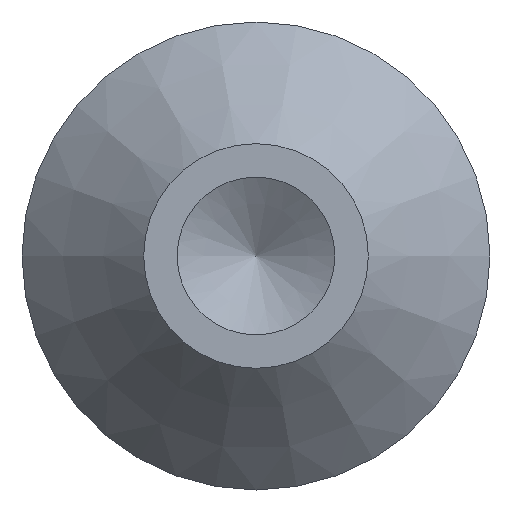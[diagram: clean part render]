
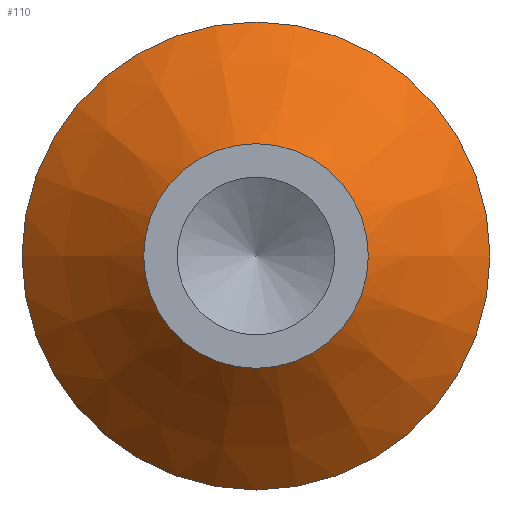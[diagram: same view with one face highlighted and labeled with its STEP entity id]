
A CAD part, left-side view. The second image highlights one B-rep face of the part: STEP entity #110.
In plain terms, the highlighted conical face has half-angle 45 degrees and reference radius 1.175 mm.
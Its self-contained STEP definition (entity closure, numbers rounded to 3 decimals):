
#24=FACE_BOUND($,#49,.T.);
#36=FACE_OUTER_BOUND($,#48,.T.);
#48=EDGE_LOOP($,(#93));
#49=EDGE_LOOP($,(#94));
#61=CIRCLE($,#128,0.762);
#63=CIRCLE($,#131,1.588);
#70=VERTEX_POINT($,#193);
#72=VERTEX_POINT($,#198);
#79=EDGE_CURVE($,#70,#70,#61,.T.);
#81=EDGE_CURVE($,#72,#72,#63,.T.);
#93=ORIENTED_EDGE($,*,*,#81,.F.);
#94=ORIENTED_EDGE($,*,*,#79,.T.);
#103=CONICAL_SURFACE($,#130,1.175,45.);
#110=ADVANCED_FACE($,(#36,#24),#103,.T.);
#128=AXIS2_PLACEMENT_3D($,#194,#160,#161);
#130=AXIS2_PLACEMENT_3D($,#197,#164,#165);
#131=AXIS2_PLACEMENT_3D($,#199,#166,#167);
#160=DIRECTION('center_axis',(1.,0.,0.));
#161=DIRECTION('ref_axis',(0.,1.,0.));
#164=DIRECTION('center_axis',(1.,0.,0.));
#165=DIRECTION('ref_axis',(0.,1.,0.));
#166=DIRECTION('center_axis',(1.,0.,0.));
#167=DIRECTION('ref_axis',(0.,1.,0.));
#193=CARTESIAN_POINT('',(3.175,0.762,0.));
#194=CARTESIAN_POINT('Origin',(3.175,0.,0.));
#197=CARTESIAN_POINT('Origin',(3.588,0.,0.));
#198=CARTESIAN_POINT('',(4.001,1.588,0.));
#199=CARTESIAN_POINT('Origin',(4.001,0.,0.));
